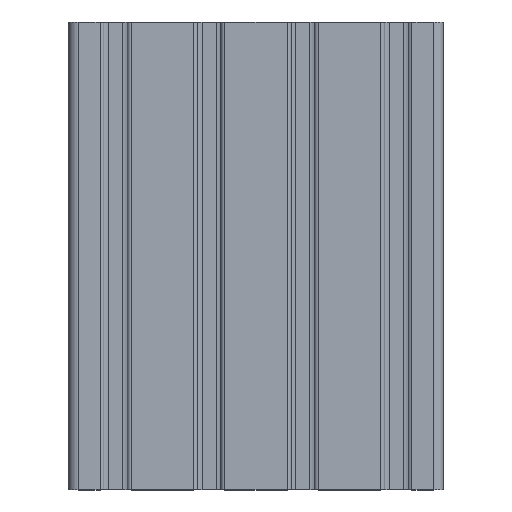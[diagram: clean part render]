
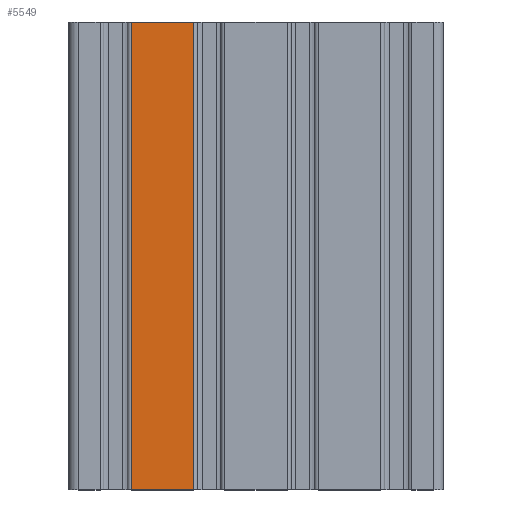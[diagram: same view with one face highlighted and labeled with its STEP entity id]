
A CAD part, top view. The second image highlights one B-rep face of the part: STEP entity #5549.
In plain terms, the highlighted planar face has unit normal (0, 0, 1).
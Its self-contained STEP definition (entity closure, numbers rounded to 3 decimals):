
#107 = CARTESIAN_POINT ( 'NONE',  ( -26.7, 50., 10. ) ) ;
#131 = EDGE_CURVE ( 'NONE', #217, #2901, #3901, .T. ) ;
#217 = VERTEX_POINT ( 'NONE', #2140 ) ;
#343 = LINE ( 'NONE', #6128, #3733 ) ;
#508 = CARTESIAN_POINT ( 'NONE',  ( -26.7, 50., 10. ) ) ;
#685 = ORIENTED_EDGE ( 'NONE', *, *, #2399, .T. ) ;
#752 = LINE ( 'NONE', #107, #1440 ) ;
#843 = DIRECTION ( 'NONE',  ( 0., -1., 0. ) ) ;
#849 = VECTOR ( 'NONE', #843, 1000. ) ;
#1009 = EDGE_CURVE ( 'NONE', #1574, #217, #752, .T. ) ;
#1440 = VECTOR ( 'NONE', #2571, 1000. ) ;
#1464 = CARTESIAN_POINT ( 'NONE',  ( -13.3, -50., 10. ) ) ;
#1574 = VERTEX_POINT ( 'NONE', #2662 ) ;
#1949 = VERTEX_POINT ( 'NONE', #2014 ) ;
#2014 = CARTESIAN_POINT ( 'NONE',  ( -26.7, -50., 10. ) ) ;
#2018 = AXIS2_PLACEMENT_3D ( 'NONE', #508, #2906, #5834 ) ;
#2140 = CARTESIAN_POINT ( 'NONE',  ( -13.3, 50., 10. ) ) ;
#2196 = ORIENTED_EDGE ( 'NONE', *, *, #131, .F. ) ;
#2399 = EDGE_CURVE ( 'NONE', #1949, #2901, #343, .T. ) ;
#2558 = EDGE_CURVE ( 'NONE', #1574, #1949, #4148, .T. ) ;
#2571 = DIRECTION ( 'NONE',  ( 1., 0., 0. ) ) ;
#2662 = CARTESIAN_POINT ( 'NONE',  ( -26.7, 50., 10. ) ) ;
#2704 = DIRECTION ( 'NONE',  ( 1., 0., 0. ) ) ;
#2901 = VERTEX_POINT ( 'NONE', #1464 ) ;
#2906 = DIRECTION ( 'NONE',  ( 0., 0., -1. ) ) ;
#3541 = ORIENTED_EDGE ( 'NONE', *, *, #2558, .T. ) ;
#3733 = VECTOR ( 'NONE', #2704, 1000. ) ;
#3901 = LINE ( 'NONE', #4345, #849 ) ;
#4148 = LINE ( 'NONE', #5890, #6397 ) ;
#4345 = CARTESIAN_POINT ( 'NONE',  ( -13.3, 50., 10. ) ) ;
#4429 = FACE_OUTER_BOUND ( 'NONE', #7019, .T. ) ;
#4693 = PLANE ( 'NONE',  #2018 ) ;
#5241 = DIRECTION ( 'NONE',  ( 0., -1., 0. ) ) ;
#5549 = ADVANCED_FACE ( 'NONE', ( #4429 ), #4693, .F. ) ;
#5583 = ORIENTED_EDGE ( 'NONE', *, *, #1009, .F. ) ;
#5834 = DIRECTION ( 'NONE',  ( -1., 0., 0. ) ) ;
#5890 = CARTESIAN_POINT ( 'NONE',  ( -26.7, 50., 10. ) ) ;
#6128 = CARTESIAN_POINT ( 'NONE',  ( -26.7, -50., 10. ) ) ;
#6397 = VECTOR ( 'NONE', #5241, 1000. ) ;
#7019 = EDGE_LOOP ( 'NONE', ( #685, #2196, #5583, #3541 ) ) ;
